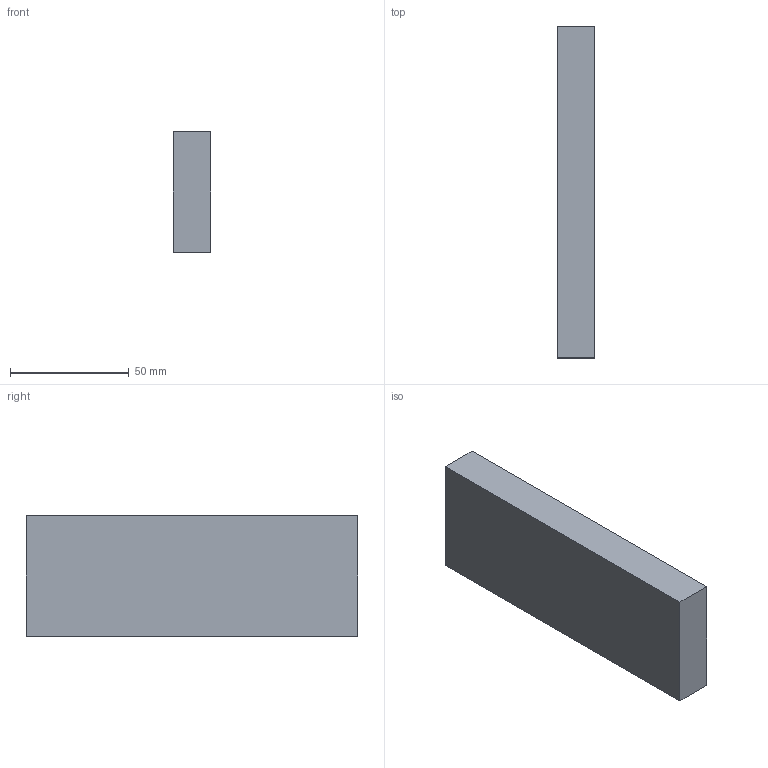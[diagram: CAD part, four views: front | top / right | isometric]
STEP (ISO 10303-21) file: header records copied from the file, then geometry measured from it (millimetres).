
FILE_DESCRIPTION(('Open CASCADE Model'),'2;1');
FILE_NAME('Open CASCADE Shape Model','2026-10-20T13:19:35',('Author'),( 'Open CASCADE'),'Open CASCADE STEP processor 7.9','Open CASCADE 7.9' ,'Unknown');
FILE_SCHEMA(('AUTOMOTIVE_DESIGN { 1 0 10303 214 1 1 1 1 }'));
Length unit declared in the file: millimetre
Products named in the file (1): Open CASCADE STEP translator 7.9 43
Bounding box: 16 x 140 x 51 mm (x, y, z)
Volume: 114240 mm3; surface area: 20392 mm2
Topology: 1 solids, 1 shells, 6 faces, 12 edges, 8 vertices
Faces by surface type: plane 6
Entity records: 322 total; most frequent: CARTESIAN_POINT 51, DIRECTION 50, LINE 36, VECTOR 36, ORIENTED_EDGE 24, PCURVE 24, DEFINITIONAL_REPRESENTATION 24, EDGE_CURVE 12
